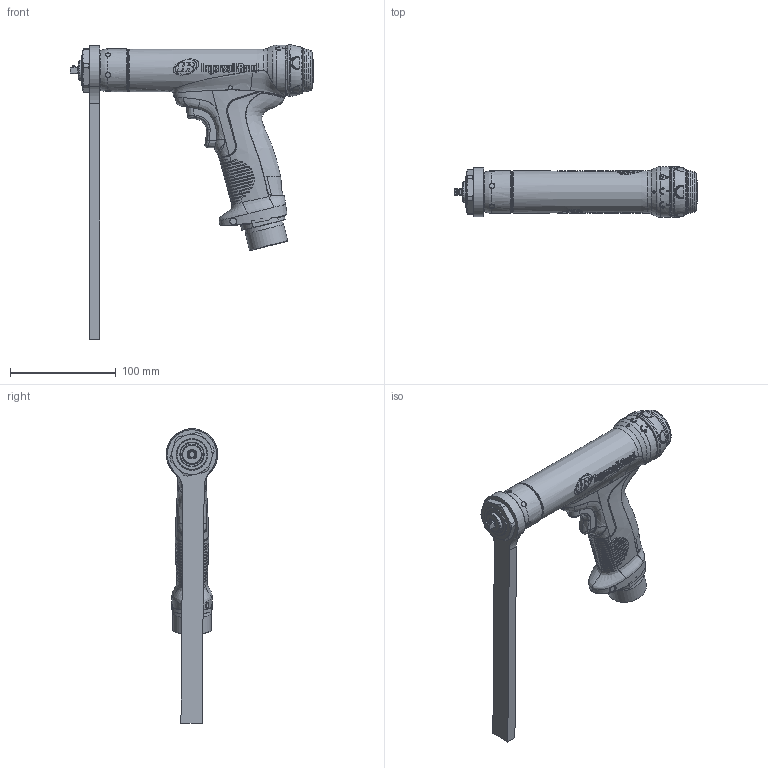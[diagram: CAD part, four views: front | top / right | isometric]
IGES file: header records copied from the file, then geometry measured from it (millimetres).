
Global section: file name: C:\ganesh\OUTLINE_MODEL\QE4\QE4_IGES.igs; native system: Unigraphics Version X V2.0; preprocessor: Unigraphics NX IGES V2.0; date: 20051124.160221; units: millimetre
Bounding box: 230.44 x 48.49 x 278.35 mm (x, y, z)
Surface area: 90286.1 mm2 (no closed solid volume)
Topology: 0 solids, 0 shells, 1651 faces, 20144 edges, 20052 vertices
Faces by surface type: extrusion 650, revolution 461, bspline 436, offset 104
